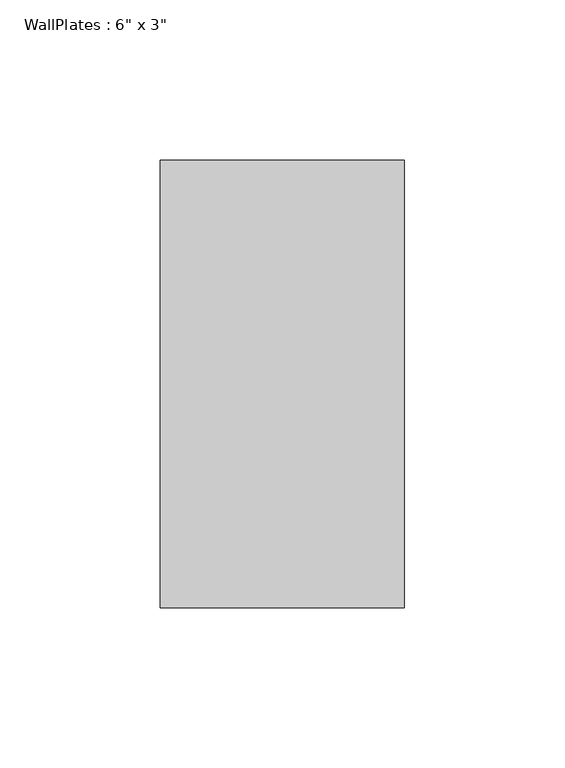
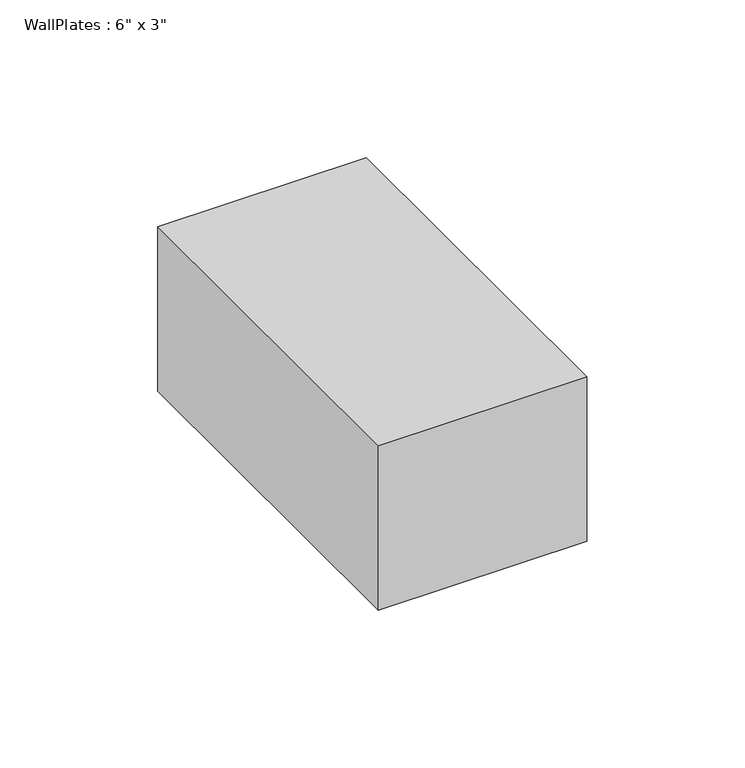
"""IFC4 building model written with IfcOpenShell, lengths in millimetres: beam geometry."""

from ifc_helpers import new_model, si_unit, frame, origin, place, context, project, spatial, polyline, outline, extrude, source, transform, mapped, element, save


def beam_6d0ef5b7(model_context):
    return source(origin(), model_context, "Body", "SweptSolid", [
        extrude(outline(polyline([(-38.1075, -69.85), (-38.1075, 69.85), (38.1075, 69.85), (38.1075, -69.85), (-38.1075, -69.85)])), frame((0.0, 0.0, -31.75), z_axis=(0.0, 0.0, 1.0), x_axis=(1.0, 0.0, 0.0)), (0.0, 0.0, 1.0), 63.5),
    ])


if __name__ == "__main__":
    model = new_model("IFC4")
    model_context = context("Model", 3, world=origin())
    ifc_project = project(units=[si_unit("LENGTHUNIT", "METRE", prefix="MILLI")], contexts=[model_context])
    site = spatial("IfcSite", under=ifc_project)
    building = spatial("IfcBuilding", under=site)
    placement = place(None, origin())
    beam_shape = beam_6d0ef5b7(model_context)
    element("IfcBeam", 1, ObjectType="WallPlates : 6\" x 3\"", at=placement, inside=building, context=model_context, shape_type="MappedRepresentation", body=[
        mapped(beam_shape, transform((0.0, 0.0, 0.0), x_axis=(1.0, 0.0, 0.0), y_axis=(0.0, 1.0, 0.0), z_axis=(0.0, 0.0, 1.0))),
    ])
    save(model, "model.ifc")
